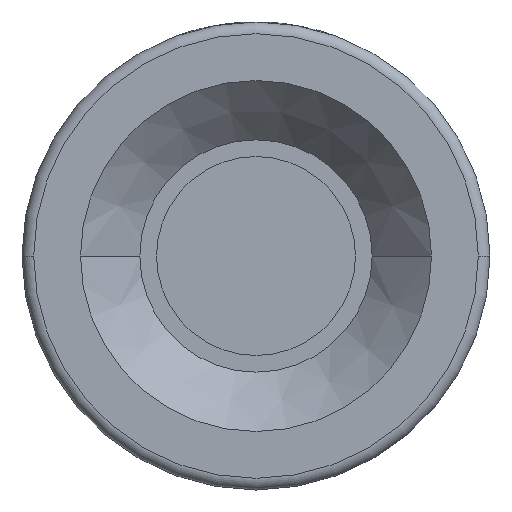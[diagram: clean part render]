
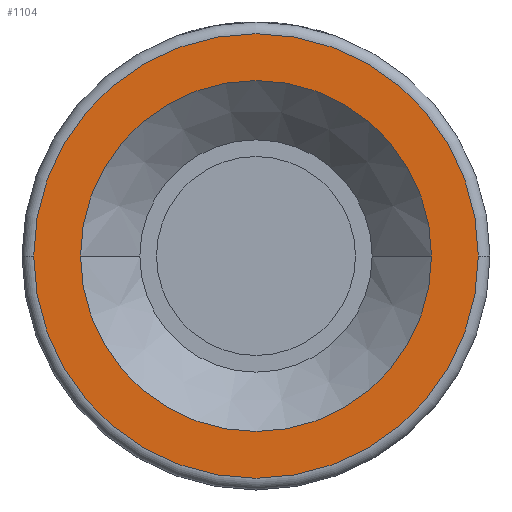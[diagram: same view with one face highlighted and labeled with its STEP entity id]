
A CAD part, front view. The second image highlights one B-rep face of the part: STEP entity #1104.
In plain terms, the highlighted planar face has unit normal (0, -1, 0).
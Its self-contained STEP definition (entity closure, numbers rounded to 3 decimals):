
#20 = DIRECTION ( 'NONE',  ( 0., -1., 0. ) ) ;
#96 = ORIENTED_EDGE ( 'NONE', *, *, #1009, .F. ) ;
#142 = ORIENTED_EDGE ( 'NONE', *, *, #1772, .T. ) ;
#162 = CIRCLE ( 'NONE', #1130, 19. ) ;
#166 = EDGE_CURVE ( 'NONE', #1121, #3387, #2163, .T. ) ;
#336 = ORIENTED_EDGE ( 'NONE', *, *, #166, .F. ) ;
#912 = FACE_OUTER_BOUND ( 'NONE', #1181, .T. ) ;
#1009 = EDGE_CURVE ( 'NONE', #3387, #1121, #4001, .T. ) ;
#1104 = ADVANCED_FACE ( 'NONE', ( #912, #3179 ), #3460, .T. ) ;
#1121 = VERTEX_POINT ( 'NONE', #2222 ) ;
#1129 = AXIS2_PLACEMENT_3D ( 'NONE', #2340, #2915, #1294 ) ;
#1130 = AXIS2_PLACEMENT_3D ( 'NONE', #1656, #20, #3720 ) ;
#1160 = DIRECTION ( 'NONE',  ( 1., 0., 0. ) ) ;
#1181 = EDGE_LOOP ( 'NONE', ( #142, #2349 ) ) ;
#1294 = DIRECTION ( 'NONE',  ( 1., 0., 0. ) ) ;
#1447 = VERTEX_POINT ( 'NONE', #3136 ) ;
#1656 = CARTESIAN_POINT ( 'NONE',  ( 0., -13., 0. ) ) ;
#1772 = EDGE_CURVE ( 'NONE', #1447, #2097, #162, .T. ) ;
#1786 = CARTESIAN_POINT ( 'NONE',  ( 0., -13., 0. ) ) ;
#1889 = AXIS2_PLACEMENT_3D ( 'NONE', #1786, #3467, #3747 ) ;
#2021 = CARTESIAN_POINT ( 'NONE',  ( -19., -13., 0. ) ) ;
#2097 = VERTEX_POINT ( 'NONE', #2021 ) ;
#2163 = CIRCLE ( 'NONE', #1889, 15. ) ;
#2222 = CARTESIAN_POINT ( 'NONE',  ( 15., -13., 0. ) ) ;
#2340 = CARTESIAN_POINT ( 'NONE',  ( 0., -13., 0. ) ) ;
#2349 = ORIENTED_EDGE ( 'NONE', *, *, #3773, .T. ) ;
#2738 = DIRECTION ( 'NONE',  ( 0., -1., 0. ) ) ;
#2754 = CARTESIAN_POINT ( 'NONE',  ( -15., -13., 0. ) ) ;
#2879 = DIRECTION ( 'NONE',  ( 0., -1., 0. ) ) ;
#2904 = DIRECTION ( 'NONE',  ( 1., 0., 0. ) ) ;
#2915 = DIRECTION ( 'NONE',  ( 0., -1., 0. ) ) ;
#3060 = CARTESIAN_POINT ( 'NONE',  ( 0., -13., 0. ) ) ;
#3120 = AXIS2_PLACEMENT_3D ( 'NONE', #3060, #2738, #1160 ) ;
#3136 = CARTESIAN_POINT ( 'NONE',  ( 19., -13., 0. ) ) ;
#3179 = FACE_BOUND ( 'NONE', #3846, .T. ) ;
#3191 = AXIS2_PLACEMENT_3D ( 'NONE', #3832, #2879, #2904 ) ;
#3245 = CIRCLE ( 'NONE', #1129, 19. ) ;
#3387 = VERTEX_POINT ( 'NONE', #2754 ) ;
#3460 = PLANE ( 'NONE',  #3191 ) ;
#3467 = DIRECTION ( 'NONE',  ( 0., -1., 0. ) ) ;
#3720 = DIRECTION ( 'NONE',  ( 1., 0., 0. ) ) ;
#3747 = DIRECTION ( 'NONE',  ( 1., 0., 0. ) ) ;
#3773 = EDGE_CURVE ( 'NONE', #2097, #1447, #3245, .T. ) ;
#3832 = CARTESIAN_POINT ( 'NONE',  ( 20., -13., 0. ) ) ;
#3846 = EDGE_LOOP ( 'NONE', ( #336, #96 ) ) ;
#4001 = CIRCLE ( 'NONE', #3120, 15. ) ;
